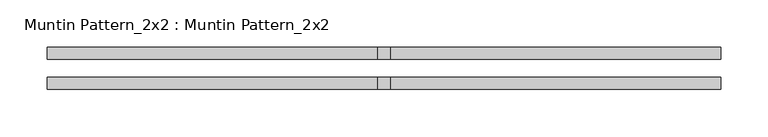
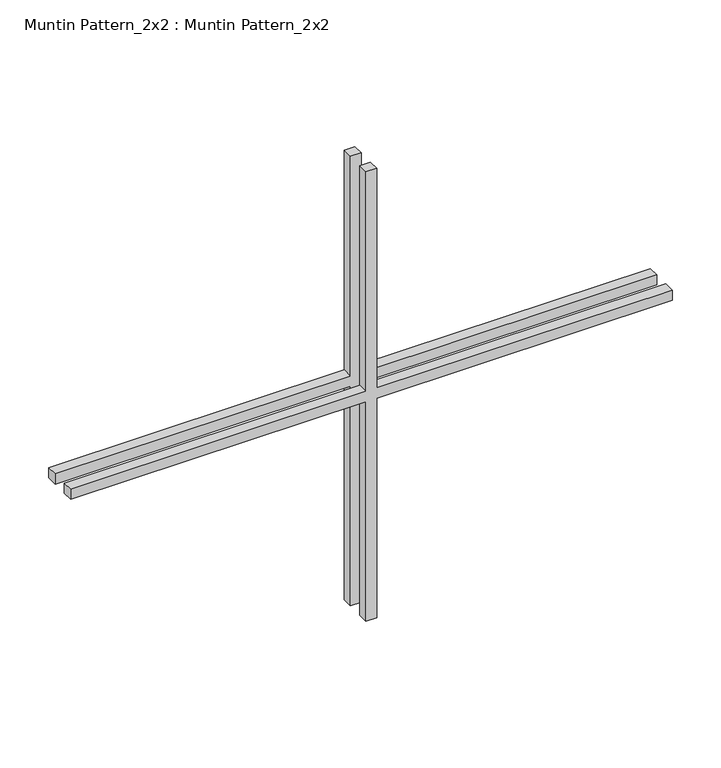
"""IFC4 building model written with IfcOpenShell, lengths in millimetres: proxy geometry, Muntin Pattern_2x2 : Muntin Pattern_2x2."""

from ifc_helpers import new_model, si_unit, frame, origin, place, context, project, spatial, polyline, outline, extrude, source, transform, mapped, element, save


def muntin_pattern_2x2_muntin_pattern_2x2_4ae90856(model_context):
    return source(origin(), model_context, "Body", "SweptSolid", [
        extrude(outline(polyline([(287.3375, -6.35), (287.3375, -355.6), (274.6375, -355.6), (274.6375, -6.35), (0.0, -6.35), (0.0, 6.35), (274.6375, 6.35), (274.6375, 355.6), (287.3375, 355.6), (287.3375, 6.35), (561.975, 6.35), (561.975, -6.35), (287.3375, -6.35)])), frame((0.0, 9.525, 0.0), z_axis=(0.0, 1.0, 0.0), x_axis=(0.0, 0.0, 1.0)), (0.0, 0.0, 1.0), 12.7),
        extrude(outline(polyline([(287.3375, -6.35), (287.3375, -355.6), (274.6375, -355.6), (274.6375, -6.35), (0.0, -6.35), (0.0, 6.35), (274.6375, 6.35), (274.6375, 355.6), (287.3375, 355.6), (287.3375, 6.35), (561.975, 6.35), (561.975, -6.35), (287.3375, -6.35)])), frame((0.0, -22.225, 0.0), z_axis=(0.0, 1.0, 0.0), x_axis=(0.0, 0.0, 1.0)), (0.0, 0.0, 1.0), 12.7),
    ])


if __name__ == "__main__":
    model = new_model("IFC4")
    model_context = context("Model", 3, world=origin())
    ifc_project = project(units=[si_unit("LENGTHUNIT", "METRE", prefix="MILLI")], contexts=[model_context])
    site = spatial("IfcSite", under=ifc_project)
    building = spatial("IfcBuilding", under=site)
    placement = place(None, origin())
    muntin_pattern_2x2_muntin_pattern_2x2_shape = muntin_pattern_2x2_muntin_pattern_2x2_4ae90856(model_context)
    element("IfcBuildingElementProxy", 1, Name="Muntin Pattern_2x2 : Muntin Pattern_2x2", ObjectType="Muntin Pattern_2x2 : Muntin Pattern_2x2", at=placement, inside=building, context=model_context, shape_type="MappedRepresentation", body=[
        mapped(muntin_pattern_2x2_muntin_pattern_2x2_shape, transform((0.0, 0.0, 0.0), x_axis=(1.0, 0.0, 0.0), y_axis=(0.0, 1.0, 0.0), z_axis=(0.0, 0.0, 1.0))),
    ])
    save(model, "model.ifc")
